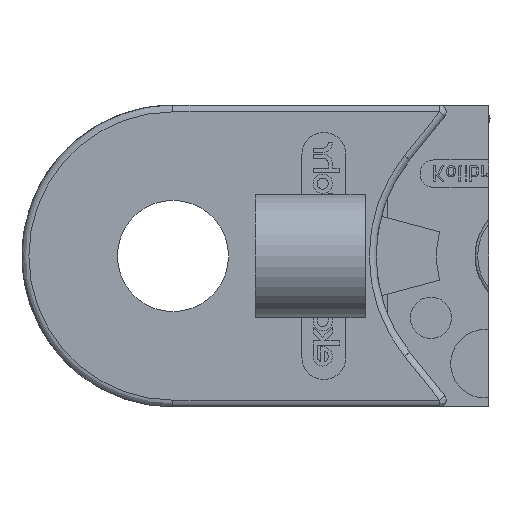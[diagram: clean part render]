
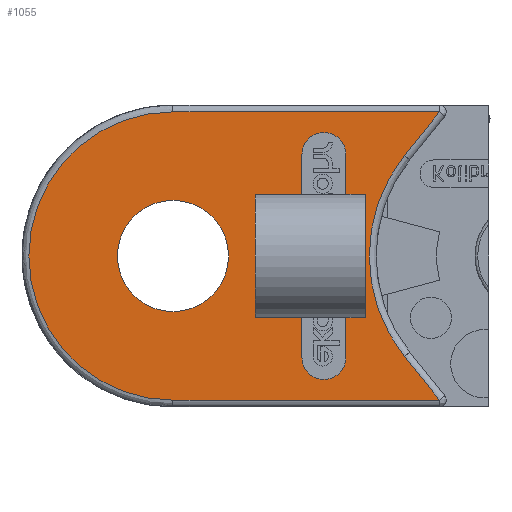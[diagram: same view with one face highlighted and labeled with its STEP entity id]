
A CAD part, left-side view. The second image highlights one B-rep face of the part: STEP entity #1055.
In plain terms, the highlighted free-form (B-spline) face has degree [1, 1] with [2, 2] control points.
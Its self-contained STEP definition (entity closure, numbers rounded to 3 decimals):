
#113=CARTESIAN_POINT('',(-2.8,-1.,6.5));
#114=VERTEX_POINT('',#113);
#123=CARTESIAN_POINT('',(-2.8,-1.,15.5));
#124=VERTEX_POINT('',#123);
#125=CARTESIAN_POINT('',(-2.8,-1.,15.5));
#126=DIRECTION('',(0.0,0.0,-1.0));
#127=VECTOR('',#126,9.0);
#128=LINE('',#125,#127);
#129=EDGE_CURVE('',#124,#114,#128,.T.);
#219=CARTESIAN_POINT('',(-2.8,0.4,15.5));
#220=VERTEX_POINT('',#219);
#221=CARTESIAN_POINT('',(-2.8,0.4,15.5));
#222=DIRECTION('',(0.0,-1.0,0.0));
#223=VECTOR('',#222,1.4);
#224=LINE('',#221,#223);
#225=EDGE_CURVE('',#220,#124,#224,.T.);
#243=CARTESIAN_POINT('',(-2.8,3.6,15.5));
#244=VERTEX_POINT('',#243);
#251=CARTESIAN_POINT('',(-2.8,7.,15.5));
#252=VERTEX_POINT('',#251);
#253=CARTESIAN_POINT('',(-2.8,7.,15.5));
#254=DIRECTION('',(0.0,-1.0,0.0));
#255=VECTOR('',#254,3.4);
#256=LINE('',#253,#255);
#257=EDGE_CURVE('',#252,#244,#256,.T.);
#284=CARTESIAN_POINT('',(-2.8,3.6,6.5));
#285=VERTEX_POINT('',#284);
#426=CARTESIAN_POINT('',(-2.8,0.4,6.5));
#427=VERTEX_POINT('',#426);
#842=CARTESIAN_POINT('',(-2.8,7.,6.5));
#843=VERTEX_POINT('',#842);
#850=CARTESIAN_POINT('',(-2.8,3.6,6.5));
#851=DIRECTION('',(0.0,1.0,0.0));
#852=VECTOR('',#851,3.4);
#853=LINE('',#850,#852);
#854=EDGE_CURVE('',#285,#843,#853,.T.);
#871=CARTESIAN_POINT('',(-2.8,-1.,6.5));
#872=DIRECTION('',(0.0,1.0,0.0));
#873=VECTOR('',#872,1.4);
#874=LINE('',#871,#873);
#875=EDGE_CURVE('',#114,#427,#874,.T.);
#885=CARTESIAN_POINT('',(-2.8,7.,6.5));
#886=DIRECTION('',(0.0,0.0,1.0));
#887=VECTOR('',#886,9.0);
#888=LINE('',#885,#887);
#889=EDGE_CURVE('',#843,#252,#888,.T.);
#933=CARTESIAN_POINT('',(-2.8,23.5,21.5));
#934=CARTESIAN_POINT('',(-2.8,23.5,0.5));
#935=CARTESIAN_POINT('',(-2.8,-6.419,21.5));
#936=CARTESIAN_POINT('',(-2.8,-6.419,0.5));
#937=B_SPLINE_SURFACE_WITH_KNOTS('',1,1,((#933,#935),(#934,#936)),.UNSPECIFIED.,.F.,.F.,.U.,(2,2),(2,2),(0.0,21.),(0.0,29.919),.UNSPECIFIED.);
#938=CARTESIAN_POINT('',(-2.8,-3.868,3.686));
#939=VERTEX_POINT('',#938);
#940=CARTESIAN_POINT('',(-2.8,-3.868,18.314));
#941=VERTEX_POINT('',#940);
#942=CARTESIAN_POINT('',(-2.8,-13.,11.));
#943=DIRECTION('',(1.0,0.0,0.0));
#944=DIRECTION('',(0.0,1.0,0.0));
#945=AXIS2_PLACEMENT_3D('',#942,#943,#944);
#946=CIRCLE('',#945,11.7);
#947=EDGE_CURVE('',#939,#941,#946,.T.);
#948=ORIENTED_EDGE('',*,*,#947,.T.);
#949=CARTESIAN_POINT('',(-2.8,-6.419,21.5));
#950=VERTEX_POINT('',#949);
#951=CARTESIAN_POINT('',(-2.8,-3.868,18.314));
#952=DIRECTION('',(0.0,-0.625,0.781));
#953=VECTOR('',#952,4.082);
#954=LINE('',#951,#953);
#955=EDGE_CURVE('',#941,#950,#954,.T.);
#956=ORIENTED_EDGE('',*,*,#955,.T.);
#957=CARTESIAN_POINT('',(-2.8,13.,21.5));
#958=VERTEX_POINT('',#957);
#959=CARTESIAN_POINT('',(-2.8,-6.419,21.5));
#960=DIRECTION('',(0.0,1.0,0.0));
#961=VECTOR('',#960,19.419);
#962=LINE('',#959,#961);
#963=EDGE_CURVE('',#950,#958,#962,.T.);
#964=ORIENTED_EDGE('',*,*,#963,.T.);
#965=CARTESIAN_POINT('',(-2.8,13.,0.5));
#966=VERTEX_POINT('',#965);
#967=CARTESIAN_POINT('',(-2.8,13.,11.));
#968=DIRECTION('',(-1.0,0.0,0.0));
#969=DIRECTION('',(0.0,1.0,0.0));
#970=AXIS2_PLACEMENT_3D('',#967,#968,#969);
#971=CIRCLE('',#970,10.5);
#972=EDGE_CURVE('',#958,#966,#971,.T.);
#973=ORIENTED_EDGE('',*,*,#972,.T.);
#974=CARTESIAN_POINT('',(-2.8,-6.419,0.5));
#975=VERTEX_POINT('',#974);
#976=CARTESIAN_POINT('',(-2.8,13.,0.5));
#977=DIRECTION('',(0.0,-1.0,0.0));
#978=VECTOR('',#977,19.419);
#979=LINE('',#976,#978);
#980=EDGE_CURVE('',#966,#975,#979,.T.);
#981=ORIENTED_EDGE('',*,*,#980,.T.);
#982=CARTESIAN_POINT('',(-2.8,-6.419,0.5));
#983=DIRECTION('',(0.0,0.625,0.781));
#984=VECTOR('',#983,4.082);
#985=LINE('',#982,#984);
#986=EDGE_CURVE('',#975,#939,#985,.T.);
#987=ORIENTED_EDGE('',*,*,#986,.T.);
#988=EDGE_LOOP('',(#948,#956,#964,#973,#981,#987));
#989=FACE_OUTER_BOUND('',#988,.T.);
#990=ORIENTED_EDGE('',*,*,#875,.T.);
#991=CARTESIAN_POINT('',(-2.8,0.4,3.6));
#992=VERTEX_POINT('',#991);
#993=CARTESIAN_POINT('',(-2.8,0.4,3.6));
#994=DIRECTION('',(0.0,0.0,1.0));
#995=VECTOR('',#994,2.9);
#996=LINE('',#993,#995);
#997=EDGE_CURVE('',#992,#427,#996,.T.);
#998=ORIENTED_EDGE('',*,*,#997,.F.);
#999=CARTESIAN_POINT('',(-2.8,3.6,3.6));
#1000=VERTEX_POINT('',#999);
#1001=CARTESIAN_POINT('',(-2.8,2.,3.6));
#1002=DIRECTION('',(-1.0,0.0,0.0));
#1003=DIRECTION('',(0.0,-1.0,0.0));
#1004=AXIS2_PLACEMENT_3D('',#1001,#1002,#1003);
#1005=CIRCLE('',#1004,1.6);
#1006=EDGE_CURVE('',#1000,#992,#1005,.T.);
#1007=ORIENTED_EDGE('',*,*,#1006,.F.);
#1008=CARTESIAN_POINT('',(-2.8,3.6,6.5));
#1009=DIRECTION('',(0.0,0.0,-1.0));
#1010=VECTOR('',#1009,2.9);
#1011=LINE('',#1008,#1010);
#1012=EDGE_CURVE('',#285,#1000,#1011,.T.);
#1013=ORIENTED_EDGE('',*,*,#1012,.F.);
#1014=ORIENTED_EDGE('',*,*,#854,.T.);
#1015=ORIENTED_EDGE('',*,*,#889,.T.);
#1016=ORIENTED_EDGE('',*,*,#257,.T.);
#1017=CARTESIAN_POINT('',(-2.8,3.6,18.4));
#1018=VERTEX_POINT('',#1017);
#1019=CARTESIAN_POINT('',(-2.8,3.6,18.4));
#1020=DIRECTION('',(0.0,0.0,-1.0));
#1021=VECTOR('',#1020,2.9);
#1022=LINE('',#1019,#1021);
#1023=EDGE_CURVE('',#1018,#244,#1022,.T.);
#1024=ORIENTED_EDGE('',*,*,#1023,.F.);
#1025=CARTESIAN_POINT('',(-2.8,0.4,18.4));
#1026=VERTEX_POINT('',#1025);
#1027=CARTESIAN_POINT('',(-2.8,2.,18.4));
#1028=DIRECTION('',(-1.0,0.0,0.0));
#1029=DIRECTION('',(0.0,-1.0,0.0));
#1030=AXIS2_PLACEMENT_3D('',#1027,#1028,#1029);
#1031=CIRCLE('',#1030,1.6);
#1032=EDGE_CURVE('',#1026,#1018,#1031,.T.);
#1033=ORIENTED_EDGE('',*,*,#1032,.F.);
#1034=CARTESIAN_POINT('',(-2.8,0.4,15.5));
#1035=DIRECTION('',(0.0,0.0,1.0));
#1036=VECTOR('',#1035,2.9);
#1037=LINE('',#1034,#1036);
#1038=EDGE_CURVE('',#220,#1026,#1037,.T.);
#1039=ORIENTED_EDGE('',*,*,#1038,.F.);
#1040=ORIENTED_EDGE('',*,*,#225,.T.);
#1041=ORIENTED_EDGE('',*,*,#129,.T.);
#1042=EDGE_LOOP('',(#990,#998,#1007,#1013,#1014,#1015,#1016,#1024,#1033,#1039,#1040,#1041));
#1043=FACE_BOUND('',#1042,.T.);
#1044=CARTESIAN_POINT('',(-2.8,8.95,11.));
#1045=VERTEX_POINT('',#1044);
#1046=CARTESIAN_POINT('',(-2.8,13.,11.));
#1047=DIRECTION('',(-1.0,0.0,0.0));
#1048=DIRECTION('',(0.0,1.0,0.0));
#1049=AXIS2_PLACEMENT_3D('',#1046,#1047,#1048);
#1050=CIRCLE('',#1049,4.05);
#1051=EDGE_CURVE('',#1045,#1045,#1050,.T.);
#1052=ORIENTED_EDGE('',*,*,#1051,.F.);
#1053=EDGE_LOOP('',(#1052));
#1054=FACE_BOUND('',#1053,.T.);
#1055=ADVANCED_FACE('',(#989,#1043,#1054),#937,.T.);
